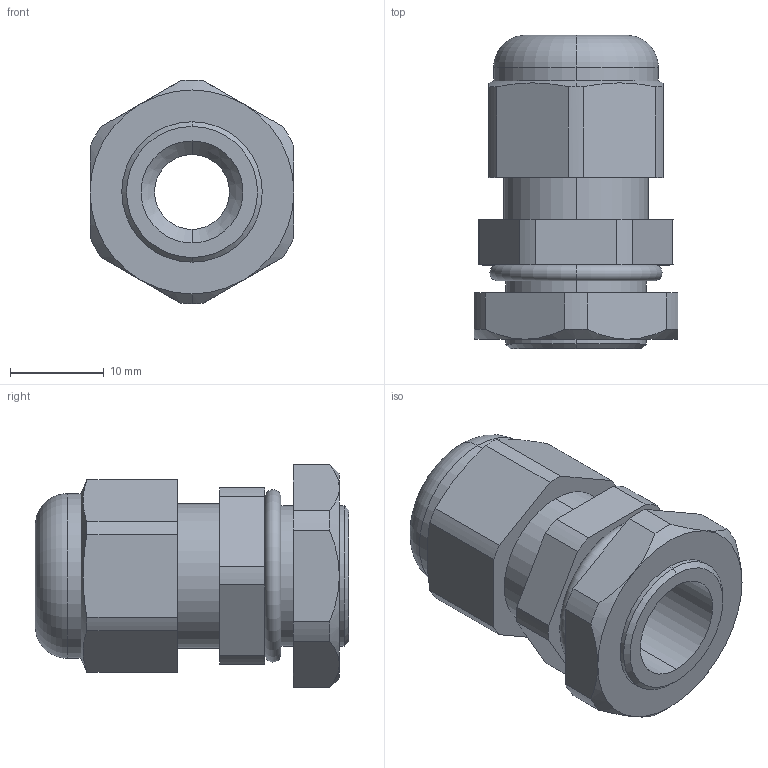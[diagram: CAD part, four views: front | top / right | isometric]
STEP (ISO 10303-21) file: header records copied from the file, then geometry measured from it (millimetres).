
FILE_DESCRIPTION (( 'STEP AP203' ), '1' );
FILE_NAME ('CH-PG9.STEP', '2018-02-07T14:40:52', ( '' ), ( '' ), 'SwSTEP 2.0', 'SolidWorks 2012', '' );
FILE_SCHEMA (( 'CONFIG_CONTROL_DESIGN' ));
Length unit declared in the file: millimetre
Products named in the file (1): CH-PG9
Bounding box: 21.8 x 33.5 x 23.89 mm (x, y, z)
Volume: 6738.5 mm3; surface area: 4173.4 mm2
Topology: 1 solids, 1 shells, 78 faces, 189 edges, 118 vertices
Faces by surface type: cylinder 34, plane 25, cone 15, torus 4
Entity records: 2438 total; most frequent: CARTESIAN_POINT 492, DIRECTION 415, ORIENTED_EDGE 378, EDGE_CURVE 189, AXIS2_PLACEMENT_3D 165, VERTEX_POINT 118, CIRCLE 86, VECTOR 85
